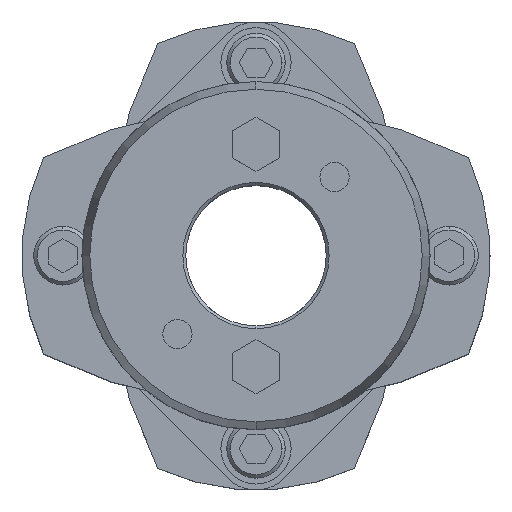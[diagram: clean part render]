
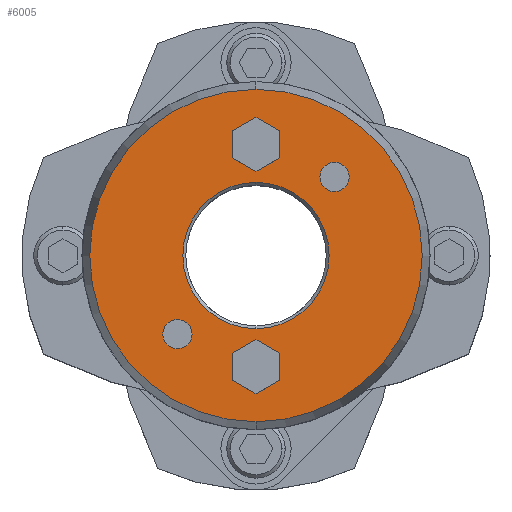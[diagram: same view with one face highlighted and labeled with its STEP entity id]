
A CAD part, top view. The second image highlights one B-rep face of the part: STEP entity #6005.
In plain terms, the highlighted planar face has unit normal (0, 0, 1).
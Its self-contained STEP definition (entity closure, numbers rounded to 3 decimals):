
#1677=CARTESIAN_POINT('',(0.,12.5,45.25));
#1678=VERTEX_POINT('',#1677);
#1694=CARTESIAN_POINT('',(0.,-12.5,45.25));
#1695=VERTEX_POINT('',#1694);
#1702=CARTESIAN_POINT('',(0.,0.,45.25));
#1703=DIRECTION('',(0.0,0.0,1.0));
#1704=DIRECTION('',(0.,1.0,0.0));
#1705=AXIS2_PLACEMENT_3D('',#1702,#1703,#1704);
#1706=CIRCLE('',#1705,12.5);
#1707=EDGE_CURVE('',#1695,#1678,#1706,.T.);
#1823=CARTESIAN_POINT('',(0.,-28.41,45.25));
#1824=VERTEX_POINT('',#1823);
#1833=CARTESIAN_POINT('',(0.,28.41,45.25));
#1834=VERTEX_POINT('',#1833);
#1835=CARTESIAN_POINT('',(0.,0.,45.25));
#1836=DIRECTION('',(0.0,0.0,-1.0));
#1837=DIRECTION('',(0.,-1.0,0.0));
#1838=AXIS2_PLACEMENT_3D('',#1835,#1836,#1837);
#1839=CIRCLE('',#1838,28.41);
#1840=EDGE_CURVE('',#1824,#1834,#1839,.T.);
#2009=CARTESIAN_POINT('',(13.435,15.935,45.25));
#2010=VERTEX_POINT('',#2009);
#2026=CARTESIAN_POINT('',(13.435,10.935,45.25));
#2027=VERTEX_POINT('',#2026);
#2034=CARTESIAN_POINT('',(13.435,13.435,45.25));
#2035=DIRECTION('',(0.0,0.0,-1.0));
#2036=DIRECTION('',(0.,1.0,0.0));
#2037=AXIS2_PLACEMENT_3D('',#2034,#2035,#2036);
#2038=CIRCLE('',#2037,2.5);
#2039=EDGE_CURVE('',#2010,#2027,#2038,.T.);
#2051=CARTESIAN_POINT('',(-13.435,-10.935,45.25));
#2052=VERTEX_POINT('',#2051);
#2068=CARTESIAN_POINT('',(-13.435,-15.935,45.25));
#2069=VERTEX_POINT('',#2068);
#2076=CARTESIAN_POINT('',(-13.435,-13.435,45.25));
#2077=DIRECTION('',(0.0,0.0,-1.0));
#2078=DIRECTION('',(0.,1.0,0.0));
#2079=AXIS2_PLACEMENT_3D('',#2076,#2077,#2078);
#2080=CIRCLE('',#2079,2.5);
#2081=EDGE_CURVE('',#2052,#2069,#2080,.T.);
#5131=CARTESIAN_POINT('',(0.,-14.381,45.25));
#5132=VERTEX_POINT('',#5131);
#5139=CARTESIAN_POINT('',(-4.,-16.691,45.25));
#5140=VERTEX_POINT('',#5139);
#5141=CARTESIAN_POINT('',(-4.,-16.691,45.25));
#5142=DIRECTION('',(0.866,0.5,0.0));
#5143=VECTOR('',#5142,4.619);
#5144=LINE('',#5141,#5143);
#5145=EDGE_CURVE('',#5140,#5132,#5144,.T.);
#5169=CARTESIAN_POINT('',(4.,-16.691,45.25));
#5170=VERTEX_POINT('',#5169);
#5177=CARTESIAN_POINT('',(0.,-14.381,45.25));
#5178=DIRECTION('',(0.866,-0.5,0.0));
#5179=VECTOR('',#5178,4.619);
#5180=LINE('',#5177,#5179);
#5181=EDGE_CURVE('',#5132,#5170,#5180,.T.);
#5200=CARTESIAN_POINT('',(4.,-21.309,45.25));
#5201=VERTEX_POINT('',#5200);
#5208=CARTESIAN_POINT('',(4.,-16.691,45.25));
#5209=DIRECTION('',(0.,-1.0,0.0));
#5210=VECTOR('',#5209,4.619);
#5211=LINE('',#5208,#5210);
#5212=EDGE_CURVE('',#5170,#5201,#5211,.T.);
#5231=CARTESIAN_POINT('',(0.,-23.619,45.25));
#5232=VERTEX_POINT('',#5231);
#5239=CARTESIAN_POINT('',(4.,-21.309,45.25));
#5240=DIRECTION('',(-0.866,-0.5,0.0));
#5241=VECTOR('',#5240,4.619);
#5242=LINE('',#5239,#5241);
#5243=EDGE_CURVE('',#5201,#5232,#5242,.T.);
#5262=CARTESIAN_POINT('',(-4.,-21.309,45.25));
#5263=VERTEX_POINT('',#5262);
#5270=CARTESIAN_POINT('',(0.,-23.619,45.25));
#5271=DIRECTION('',(-0.866,0.5,0.0));
#5272=VECTOR('',#5271,4.619);
#5273=LINE('',#5270,#5272);
#5274=EDGE_CURVE('',#5232,#5263,#5273,.T.);
#5292=CARTESIAN_POINT('',(-4.,-21.309,45.25));
#5293=DIRECTION('',(0.,1.0,0.0));
#5294=VECTOR('',#5293,4.619);
#5295=LINE('',#5292,#5294);
#5296=EDGE_CURVE('',#5263,#5140,#5295,.T.);
#5331=CARTESIAN_POINT('',(0.,23.619,45.25));
#5332=VERTEX_POINT('',#5331);
#5339=CARTESIAN_POINT('',(-4.,21.309,45.25));
#5340=VERTEX_POINT('',#5339);
#5341=CARTESIAN_POINT('',(-4.,21.309,45.25));
#5342=DIRECTION('',(0.866,0.5,0.0));
#5343=VECTOR('',#5342,4.619);
#5344=LINE('',#5341,#5343);
#5345=EDGE_CURVE('',#5340,#5332,#5344,.T.);
#5369=CARTESIAN_POINT('',(4.,21.309,45.25));
#5370=VERTEX_POINT('',#5369);
#5377=CARTESIAN_POINT('',(0.,23.619,45.25));
#5378=DIRECTION('',(0.866,-0.5,0.0));
#5379=VECTOR('',#5378,4.619);
#5380=LINE('',#5377,#5379);
#5381=EDGE_CURVE('',#5332,#5370,#5380,.T.);
#5400=CARTESIAN_POINT('',(4.,16.691,45.25));
#5401=VERTEX_POINT('',#5400);
#5408=CARTESIAN_POINT('',(4.,21.309,45.25));
#5409=DIRECTION('',(0.,-1.0,0.0));
#5410=VECTOR('',#5409,4.619);
#5411=LINE('',#5408,#5410);
#5412=EDGE_CURVE('',#5370,#5401,#5411,.T.);
#5431=CARTESIAN_POINT('',(0.,14.381,45.25));
#5432=VERTEX_POINT('',#5431);
#5439=CARTESIAN_POINT('',(4.,16.691,45.25));
#5440=DIRECTION('',(-0.866,-0.5,0.0));
#5441=VECTOR('',#5440,4.619);
#5442=LINE('',#5439,#5441);
#5443=EDGE_CURVE('',#5401,#5432,#5442,.T.);
#5462=CARTESIAN_POINT('',(-4.,16.691,45.25));
#5463=VERTEX_POINT('',#5462);
#5470=CARTESIAN_POINT('',(0.,14.381,45.25));
#5471=DIRECTION('',(-0.866,0.5,0.0));
#5472=VECTOR('',#5471,4.619);
#5473=LINE('',#5470,#5472);
#5474=EDGE_CURVE('',#5432,#5463,#5473,.T.);
#5492=CARTESIAN_POINT('',(-4.,16.691,45.25));
#5493=DIRECTION('',(0.,1.0,0.0));
#5494=VECTOR('',#5493,4.619);
#5495=LINE('',#5492,#5494);
#5496=EDGE_CURVE('',#5463,#5340,#5495,.T.);
#5522=CARTESIAN_POINT('',(-13.435,-13.435,45.25));
#5523=DIRECTION('',(0.0,0.0,-1.0));
#5524=DIRECTION('',(0.,1.0,0.0));
#5525=AXIS2_PLACEMENT_3D('',#5522,#5523,#5524);
#5526=CIRCLE('',#5525,2.5);
#5527=EDGE_CURVE('',#2069,#2052,#5526,.T.);
#5556=CARTESIAN_POINT('',(13.435,13.435,45.25));
#5557=DIRECTION('',(0.0,0.0,-1.0));
#5558=DIRECTION('',(0.,1.0,0.0));
#5559=AXIS2_PLACEMENT_3D('',#5556,#5557,#5558);
#5560=CIRCLE('',#5559,2.5);
#5561=EDGE_CURVE('',#2027,#2010,#5560,.T.);
#5952=CARTESIAN_POINT('',(0.,0.,45.25));
#5953=DIRECTION('',(0.0,0.0,-1.0));
#5954=DIRECTION('',(0.,-1.0,0.0));
#5955=AXIS2_PLACEMENT_3D('',#5952,#5953,#5954);
#5956=CIRCLE('',#5955,28.41);
#5957=EDGE_CURVE('',#1834,#1824,#5956,.T.);
#5962=CARTESIAN_POINT('',(0.,2.364,45.25));
#5963=DIRECTION('',(0.0,0.0,1.0));
#5964=DIRECTION('',(0.,1.0,0.0));
#5965=AXIS2_PLACEMENT_3D('',#5962,#5963,#5964);
#5966=PLANE('',#5965);
#5967=ORIENTED_EDGE('',*,*,#5957,.F.);
#5968=ORIENTED_EDGE('',*,*,#1840,.F.);
#5969=EDGE_LOOP('',(#5967,#5968));
#5970=FACE_OUTER_BOUND('',#5969,.T.);
#5971=ORIENTED_EDGE('',*,*,#5145,.T.);
#5972=ORIENTED_EDGE('',*,*,#5181,.T.);
#5973=ORIENTED_EDGE('',*,*,#5212,.T.);
#5974=ORIENTED_EDGE('',*,*,#5243,.T.);
#5975=ORIENTED_EDGE('',*,*,#5274,.T.);
#5976=ORIENTED_EDGE('',*,*,#5296,.T.);
#5977=EDGE_LOOP('',(#5971,#5972,#5973,#5974,#5975,#5976));
#5978=FACE_BOUND('',#5977,.T.);
#5979=ORIENTED_EDGE('',*,*,#5345,.T.);
#5980=ORIENTED_EDGE('',*,*,#5381,.T.);
#5981=ORIENTED_EDGE('',*,*,#5412,.T.);
#5982=ORIENTED_EDGE('',*,*,#5443,.T.);
#5983=ORIENTED_EDGE('',*,*,#5474,.T.);
#5984=ORIENTED_EDGE('',*,*,#5496,.T.);
#5985=EDGE_LOOP('',(#5979,#5980,#5981,#5982,#5983,#5984));
#5986=FACE_BOUND('',#5985,.T.);
#5987=ORIENTED_EDGE('',*,*,#2081,.T.);
#5988=ORIENTED_EDGE('',*,*,#5527,.T.);
#5989=EDGE_LOOP('',(#5987,#5988));
#5990=FACE_BOUND('',#5989,.T.);
#5991=ORIENTED_EDGE('',*,*,#2039,.T.);
#5992=ORIENTED_EDGE('',*,*,#5561,.T.);
#5993=EDGE_LOOP('',(#5991,#5992));
#5994=FACE_BOUND('',#5993,.T.);
#5995=ORIENTED_EDGE('',*,*,#1707,.F.);
#5996=CARTESIAN_POINT('',(0.,0.,45.25));
#5997=DIRECTION('',(0.0,0.0,1.0));
#5998=DIRECTION('',(0.,1.0,0.0));
#5999=AXIS2_PLACEMENT_3D('',#5996,#5997,#5998);
#6000=CIRCLE('',#5999,12.5);
#6001=EDGE_CURVE('',#1678,#1695,#6000,.T.);
#6002=ORIENTED_EDGE('',*,*,#6001,.F.);
#6003=EDGE_LOOP('',(#5995,#6002));
#6004=FACE_BOUND('',#6003,.T.);
#6005=ADVANCED_FACE('',(#5970,#5978,#5986,#5990,#5994,#6004),#5966,.T.);
